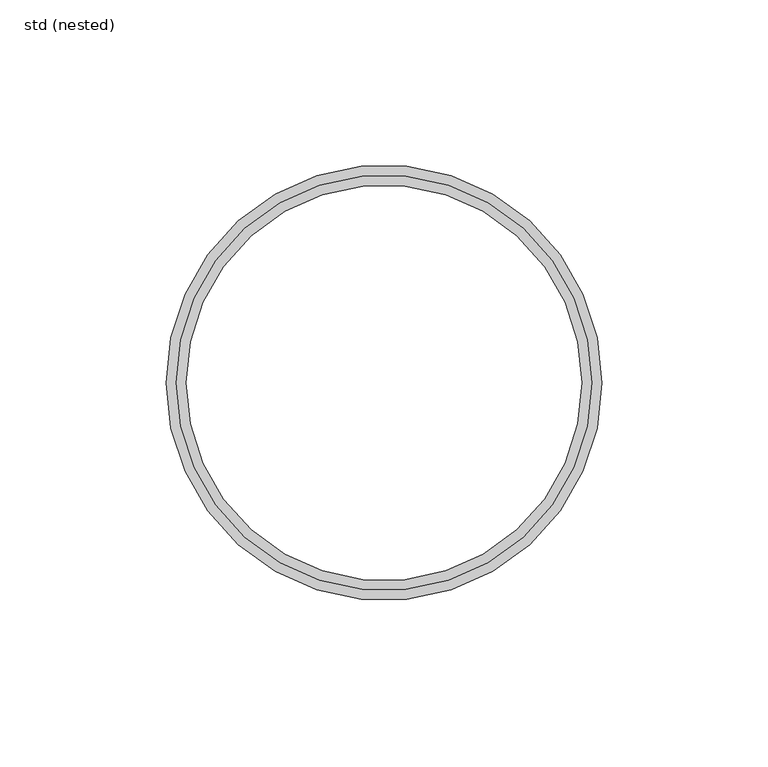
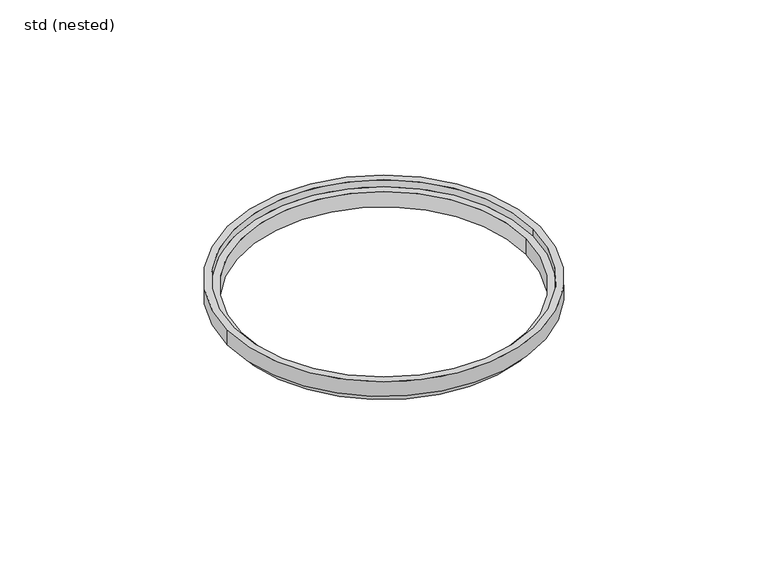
"""IFC4 building model written with IfcOpenShell, lengths in millimetres: sanitary terminal geometry, ZZZ_do_not_use_PF_GEN_UN_adjustable height ring_ACO : std (nested)."""

from ifc_helpers import new_model, si_unit, frame, origin, origin_with_axes, place, context, project, spatial, polyline, circle_curve, source, transform, mapped, element, save
from ifc_brep_helpers import plane_surface, cylinder_surface, revolved_surface, advanced_brep


def std_nested_0001026b(model_context):
    return source(origin(), model_context, "Body", "AdvancedBrep", [
        advanced_brep(
        [(-62.5, 0.0, -10.0), (62.5, 0.0, -10.0), (-59.5, 0.0, -10.0), (59.5, 0.0, -10.0), (62.5, 0.0, -3.1), (-62.5, 0.0, -3.1), (-59.5, 0.0, -3.1), (59.5, 0.0, -3.1), (62.5, 0.0, -6.5), (-62.5, 0.0, -6.5), (-65.5, 0.0, -6.5), (65.5, 0.0, -6.5), (-65.5, 0.0, 0.0), (65.5, 0.0, 0.0), (-62.5, 0.0, 0.0), (62.5, 0.0, 0.0)],
        [
            (0, 1, circle_curve(frame((0.0, 0.0, -10.0), z_axis=(0.0, 0.0, -1.0), x_axis=(1.0, 0.0, 0.0)), 62.5)),
            (1, 0, circle_curve(frame((0.0, 0.0, -10.0), z_axis=(0.0, 0.0, -1.0), x_axis=(1.0, 0.0, 0.0)), 62.5)),
            (2, 3, circle_curve(frame((0.0, 0.0, -10.0), z_axis=(0.0, 0.0, 1.0), x_axis=(1.0, 0.0, 0.0)), 59.5)),
            (3, 2, circle_curve(frame((0.0, 0.0, -10.0), z_axis=(0.0, 0.0, 1.0), x_axis=(1.0, 0.0, 0.0)), 59.5)),
            (4, 5, circle_curve(frame((0.0, 0.0, -3.1), z_axis=(0.0, 0.0, 1.0), x_axis=(1.0, 0.0, 0.0)), 62.5)),
            (5, 4, circle_curve(frame((0.0, 0.0, -3.1), z_axis=(0.0, 0.0, 1.0), x_axis=(1.0, 0.0, 0.0)), 62.5)),
            (6, 7, circle_curve(frame((0.0, 0.0, -3.1), z_axis=(0.0, 0.0, -1.0), x_axis=(1.0, 0.0, 0.0)), 59.5)),
            (7, 6, circle_curve(frame((0.0, 0.0, -3.1), z_axis=(0.0, 0.0, -1.0), x_axis=(1.0, 0.0, 0.0)), 59.5)),
            (1, 8),
            (8, 9, circle_curve(frame((0.0, 0.0, -6.5), z_axis=(0.0, 0.0, -1.0), x_axis=(1.0, 0.0, 0.0)), 62.5)),
            (9, 0),
            (9, 8, circle_curve(frame((0.0, 0.0, -6.5), z_axis=(0.0, 0.0, -1.0), x_axis=(1.0, 0.0, 0.0)), 62.5)),
            (3, 7),
            (6, 2),
            (10, 11, circle_curve(frame((0.0, 0.0, -6.5), z_axis=(0.0, 0.0, -1.0), x_axis=(1.0, 0.0, 0.0)), 65.5)),
            (11, 10, circle_curve(frame((0.0, 0.0, -6.5), z_axis=(0.0, 0.0, -1.0), x_axis=(1.0, 0.0, 0.0)), 65.5)),
            (12, 13, circle_curve(origin_with_axes(), 65.5)),
            (13, 12, circle_curve(origin_with_axes(), 65.5)),
            (14, 15, circle_curve(frame((0.0, 0.0, 0.0), z_axis=(0.0, 0.0, -1.0), x_axis=(1.0, 0.0, 0.0)), 62.5)),
            (15, 14, circle_curve(frame((0.0, 0.0, 0.0), z_axis=(0.0, 0.0, -1.0), x_axis=(1.0, 0.0, 0.0)), 62.5)),
            (11, 13),
            (12, 10),
            (14, 5),
            (4, 15),
        ],
        [
            plane_surface(frame((62.5, 0.0, -10.0), z_axis=(0.0, 0.0, -1.0), x_axis=(0.0, -1.0, 0.0))),
            plane_surface(frame((62.5, 0.0, -3.1), z_axis=(0.0, 0.0, 1.0), x_axis=(0.0, 1.0, 0.0))),
            cylinder_surface(frame((0.0, 0.0, -10.0), z_axis=(0.0, 0.0, 1.0), x_axis=(1.0, 0.0, 0.0)), 62.5),
            revolved_surface(polyline([(59.5, 0.0, -10.0), (59.5, 0.0, -3.1)]), (0.0, 0.0, 0.0), (0.0, 0.0, -1.0)),
            plane_surface(frame((65.5, 0.0, -6.5), z_axis=(0.0, 0.0, -1.0), x_axis=(0.0, -1.0, 0.0))),
            plane_surface(frame((65.5, 0.0, 0.0), z_axis=(0.0, 0.0, 1.0), x_axis=(0.0, 1.0, 0.0))),
            cylinder_surface(frame((0.0, 0.0, -6.5), z_axis=(0.0, 0.0, 1.0), x_axis=(1.0, 0.0, 0.0)), 65.5),
            revolved_surface(polyline([(62.5, 0.0, -3.1), (62.5, 0.0, 0.0)]), (0.0, 0.0, 0.0), (0.0, 0.0, -1.0)),
        ],
        [
            (0, [[1, 2], [3, 4]]),
            (1, [[5, 6], [7, 8]]),
            (2, [[-2, 9, 10, 11]]),
            (2, [[-1, -11, 12, -9]]),
            (3, [[-4, 13, -7, 14]]),
            (3, [[-3, -14, -8, -13]]),
            (4, [[15, 16], [-10, -12]]),
            (5, [[17, 18], [19, 20]]),
            (6, [[-16, 21, -17, 22]]),
            (6, [[-15, -22, -18, -21]]),
            (7, [[-19, 23, -5, 24]]),
            (7, [[-20, -24, -6, -23]]),
        ],
    ),
    ])


if __name__ == "__main__":
    model = new_model("IFC4")
    model_context = context("Model", 3, world=origin())
    ifc_project = project(units=[si_unit("LENGTHUNIT", "METRE", prefix="MILLI")], contexts=[model_context])
    site = spatial("IfcSite", under=ifc_project)
    building = spatial("IfcBuilding", under=site)
    placement = place(None, origin())
    std_nested_shape = std_nested_0001026b(model_context)
    element("IfcSanitaryTerminal", 1, ObjectType="ZZZ_do_not_use_PF_GEN_UN_adjustable height ring_ACO : std (nested)", at=placement, inside=building, context=model_context, shape_type="MappedRepresentation", body=[
        mapped(std_nested_shape, transform((0.0, 0.0, 0.0), x_axis=(1.0, 0.0, 0.0), y_axis=(0.0, 1.0, 0.0), z_axis=(0.0, 0.0, 1.0))),
    ])
    save(model, "model.ifc")
